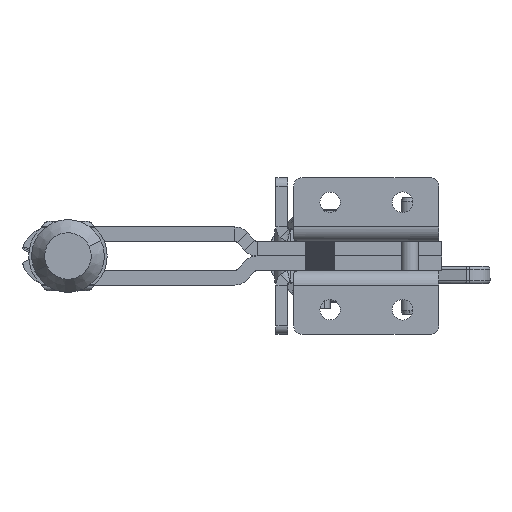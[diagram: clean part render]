
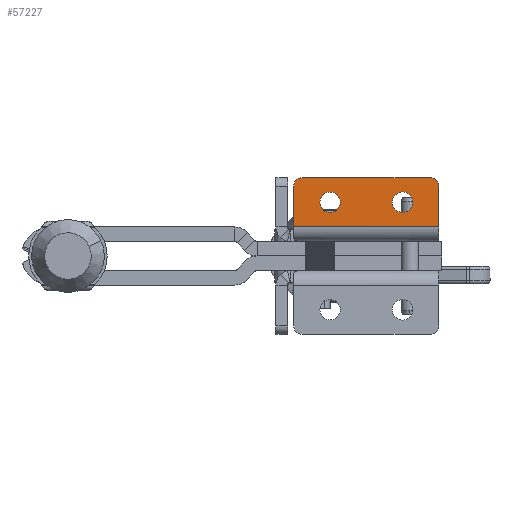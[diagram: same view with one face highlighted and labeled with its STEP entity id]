
A CAD part, front view. The second image highlights one B-rep face of the part: STEP entity #57227.
In plain terms, the highlighted planar face has unit normal (0, -1, 0).
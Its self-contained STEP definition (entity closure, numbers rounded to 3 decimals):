
#1313 = CARTESIAN_POINT ( 'NONE',  ( 47., -2.143, -18.004 ) ) ;
#2817 = DIRECTION ( 'NONE',  ( 1., 0., 0. ) ) ;
#3387 = CARTESIAN_POINT ( 'NONE',  ( 0., -2.143, -1. ) ) ;
#3693 = EDGE_LOOP ( 'NONE', ( #44515, #25685 ) ) ;
#3877 = VERTEX_POINT ( 'NONE', #5530 ) ;
#4539 = VERTEX_POINT ( 'NONE', #8526 ) ;
#4860 = CIRCLE ( 'NONE', #9584, 3.54 ) ;
#4982 = VERTEX_POINT ( 'NONE', #3387 ) ;
#5212 = VECTOR ( 'NONE', #14817, 1000. ) ;
#5274 = FACE_OUTER_BOUND ( 'NONE', #12563, .T. ) ;
#5530 = CARTESIAN_POINT ( 'NONE',  ( 50., -2.143, -1. ) ) ;
#5834 = EDGE_CURVE ( 'NONE', #58238, #6128, #13666, .T. ) ;
#6128 = VERTEX_POINT ( 'NONE', #14110 ) ;
#6708 = VECTOR ( 'NONE', #12432, 1000. ) ;
#8526 = CARTESIAN_POINT ( 'NONE',  ( 16.04, -2.143, -9.504 ) ) ;
#8716 = CARTESIAN_POINT ( 'NONE',  ( 12.5, -2.143, -9.504 ) ) ;
#8838 = CARTESIAN_POINT ( 'NONE',  ( 51.5, -2.143, 63.356 ) ) ;
#8975 = ORIENTED_EDGE ( 'NONE', *, *, #38896, .T. ) ;
#9261 = ORIENTED_EDGE ( 'NONE', *, *, #10306, .T. ) ;
#9436 = CARTESIAN_POINT ( 'NONE',  ( 34., -2.143, -9.504 ) ) ;
#9529 = ORIENTED_EDGE ( 'NONE', *, *, #39403, .F. ) ;
#9584 = AXIS2_PLACEMENT_3D ( 'NONE', #34637, #47905, #39936 ) ;
#10306 = EDGE_CURVE ( 'NONE', #39635, #3877, #13455, .T. ) ;
#10377 = EDGE_CURVE ( 'NONE', #4539, #55690, #22203, .T. ) ;
#10917 = AXIS2_PLACEMENT_3D ( 'NONE', #8838, #26836, #44847 ) ;
#12058 = LINE ( 'NONE', #16777, #19828 ) ;
#12432 = DIRECTION ( 'NONE',  ( 0., 0., -1. ) ) ;
#12563 = EDGE_LOOP ( 'NONE', ( #9261, #26378, #8975, #29084, #50715, #18152 ) ) ;
#13455 = LINE ( 'NONE', #18169, #5212 ) ;
#13666 = CIRCLE ( 'NONE', #24028, 3.5 ) ;
#13987 = DIRECTION ( 'NONE',  ( 1., 0., 0. ) ) ;
#14089 = EDGE_CURVE ( 'NONE', #30602, #39635, #49648, .T. ) ;
#14110 = CARTESIAN_POINT ( 'NONE',  ( 41., -2.143, -9.504 ) ) ;
#14113 = VECTOR ( 'NONE', #43578, 1000. ) ;
#14533 = CARTESIAN_POINT ( 'NONE',  ( 50., -2.143, -15.004 ) ) ;
#14817 = DIRECTION ( 'NONE',  ( 0., 0., 1. ) ) ;
#14916 = EDGE_LOOP ( 'NONE', ( #9529, #44598 ) ) ;
#16777 = CARTESIAN_POINT ( 'NONE',  ( 47., -2.143, -18.004 ) ) ;
#17035 = CARTESIAN_POINT ( 'NONE',  ( 51.5, -2.143, -1. ) ) ;
#18152 = ORIENTED_EDGE ( 'NONE', *, *, #14089, .T. ) ;
#18169 = CARTESIAN_POINT ( 'NONE',  ( 50., -2.143, 1.392 ) ) ;
#19828 = VECTOR ( 'NONE', #53025, 1000. ) ;
#20336 = DIRECTION ( 'NONE',  ( 1., 0., 0. ) ) ;
#21217 = CARTESIAN_POINT ( 'NONE',  ( 0., -2.143, -15.004 ) ) ;
#21947 = CARTESIAN_POINT ( 'NONE',  ( 47., -2.143, -15.004 ) ) ;
#22203 = CIRCLE ( 'NONE', #54236, 3.54 ) ;
#23687 = DIRECTION ( 'NONE',  ( 0., -1., 0. ) ) ;
#24028 = AXIS2_PLACEMENT_3D ( 'NONE', #55627, #28781, #2817 ) ;
#25685 = ORIENTED_EDGE ( 'NONE', *, *, #40220, .F. ) ;
#26378 = ORIENTED_EDGE ( 'NONE', *, *, #27509, .T. ) ;
#26836 = DIRECTION ( 'NONE',  ( 0., -1., 0. ) ) ;
#27509 = EDGE_CURVE ( 'NONE', #3877, #4982, #48580, .T. ) ;
#27700 = PLANE ( 'NONE',  #10917 ) ;
#28172 = DIRECTION ( 'NONE',  ( 1., 0., 0. ) ) ;
#28781 = DIRECTION ( 'NONE',  ( 0., -1., 0. ) ) ;
#29084 = ORIENTED_EDGE ( 'NONE', *, *, #30640, .T. ) ;
#29755 = DIRECTION ( 'NONE',  ( 0., -1., 0. ) ) ;
#29821 = DIRECTION ( 'NONE',  ( 1., 0., 0. ) ) ;
#30602 = VERTEX_POINT ( 'NONE', #1313 ) ;
#30640 = EDGE_CURVE ( 'NONE', #30973, #42640, #36653, .T. ) ;
#30973 = VERTEX_POINT ( 'NONE', #21217 ) ;
#31023 = AXIS2_PLACEMENT_3D ( 'NONE', #32599, #32030, #28172 ) ;
#32030 = DIRECTION ( 'NONE',  ( 0., -1., 0. ) ) ;
#32535 = EDGE_CURVE ( 'NONE', #42640, #30602, #12058, .T. ) ;
#32599 = CARTESIAN_POINT ( 'NONE',  ( 3., -2.143, -15.004 ) ) ;
#34637 = CARTESIAN_POINT ( 'NONE',  ( 12.5, -2.143, -9.504 ) ) ;
#35050 = AXIS2_PLACEMENT_3D ( 'NONE', #48049, #29755, #20336 ) ;
#36653 = CIRCLE ( 'NONE', #31023, 3. ) ;
#38896 = EDGE_CURVE ( 'NONE', #4982, #30973, #51960, .T. ) ;
#38987 = CARTESIAN_POINT ( 'NONE',  ( 0., -2.143, 81.356 ) ) ;
#39403 = EDGE_CURVE ( 'NONE', #55690, #4539, #4860, .T. ) ;
#39635 = VERTEX_POINT ( 'NONE', #14533 ) ;
#39936 = DIRECTION ( 'NONE',  ( 1., 0., 0. ) ) ;
#40220 = EDGE_CURVE ( 'NONE', #6128, #58238, #45424, .T. ) ;
#41326 = CARTESIAN_POINT ( 'NONE',  ( 3., -2.143, -18.004 ) ) ;
#42640 = VERTEX_POINT ( 'NONE', #41326 ) ;
#43578 = DIRECTION ( 'NONE',  ( -1., 0., 0. ) ) ;
#44515 = ORIENTED_EDGE ( 'NONE', *, *, #5834, .F. ) ;
#44551 = FACE_BOUND ( 'NONE', #14916, .T. ) ;
#44598 = ORIENTED_EDGE ( 'NONE', *, *, #10377, .F. ) ;
#44847 = DIRECTION ( 'NONE',  ( 0., 0., -1. ) ) ;
#45424 = CIRCLE ( 'NONE', #35050, 3.5 ) ;
#47786 = CARTESIAN_POINT ( 'NONE',  ( 8.96, -2.143, -9.504 ) ) ;
#47905 = DIRECTION ( 'NONE',  ( 0., -1., 0. ) ) ;
#48049 = CARTESIAN_POINT ( 'NONE',  ( 37.5, -2.143, -9.504 ) ) ;
#48580 = LINE ( 'NONE', #17035, #14113 ) ;
#49648 = CIRCLE ( 'NONE', #54354, 3. ) ;
#50122 = FACE_BOUND ( 'NONE', #3693, .T. ) ;
#50715 = ORIENTED_EDGE ( 'NONE', *, *, #32535, .T. ) ;
#51675 = DIRECTION ( 'NONE',  ( 0., -1., 0. ) ) ;
#51960 = LINE ( 'NONE', #38987, #6708 ) ;
#53025 = DIRECTION ( 'NONE',  ( 1., 0., 0. ) ) ;
#54236 = AXIS2_PLACEMENT_3D ( 'NONE', #8716, #51675, #29821 ) ;
#54354 = AXIS2_PLACEMENT_3D ( 'NONE', #21947, #23687, #13987 ) ;
#55627 = CARTESIAN_POINT ( 'NONE',  ( 37.5, -2.143, -9.504 ) ) ;
#55690 = VERTEX_POINT ( 'NONE', #47786 ) ;
#57227 = ADVANCED_FACE ( 'NONE', ( #50122, #44551, #5274 ), #27700, .T. ) ;
#58238 = VERTEX_POINT ( 'NONE', #9436 ) ;
